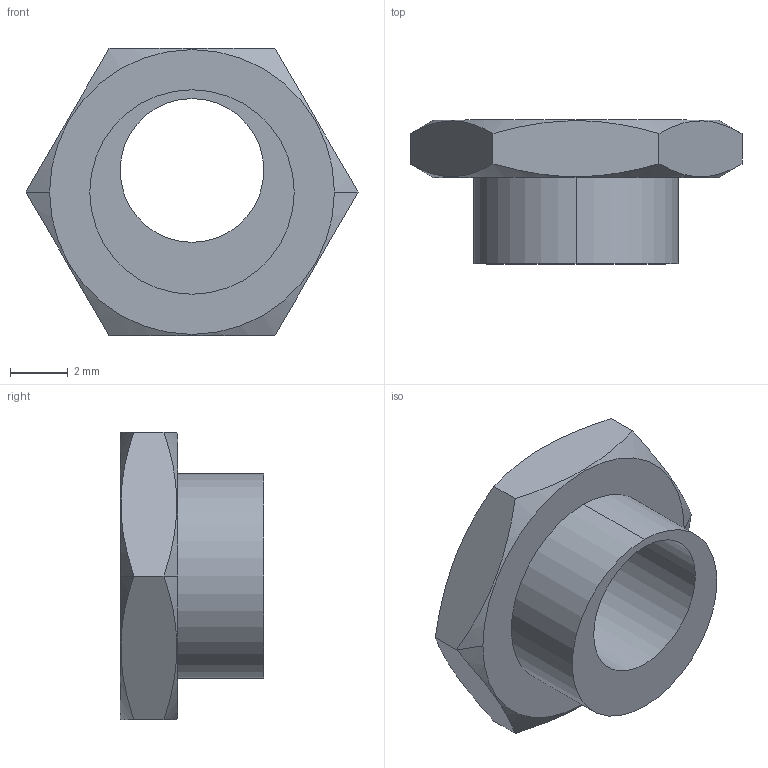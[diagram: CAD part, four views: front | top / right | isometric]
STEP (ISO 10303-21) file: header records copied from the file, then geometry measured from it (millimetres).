
FILE_DESCRIPTION((''),'2;1');
FILE_NAME('B18036','2013-07-22T',('Barton'),(''),'PRO/ENGINEER BY PARAMETRIC TECHNOLOGY CORPORATION, 2013150','PRO/ENGINEER BY PARAMETRIC TECHNOLOGY CORPORATION, 2013150','');
FILE_SCHEMA(('CONFIG_CONTROL_DESIGN'));
Length unit declared in the file: millimetre
Products named in the file (1): B18036
Bounding box: 11.55 x 5 x 10 mm (x, y, z)
Volume: 191.6 mm3; surface area: 339.2 mm2
Topology: 1 solids, 1 shells, 17 faces, 38 edges, 24 vertices
Faces by surface type: plane 9, cylinder 4, cone 4
Entity records: 756 total; most frequent: CARTESIAN_POINT 201, ORIENTED_EDGE 76, DIRECTION 72, PRESENTATION_STYLE_ASSIGNMENT 40, STYLED_ITEM 40, CURVE_STYLE 38, EDGE_CURVE 38, AXIS2_PLACEMENT_3D 29
